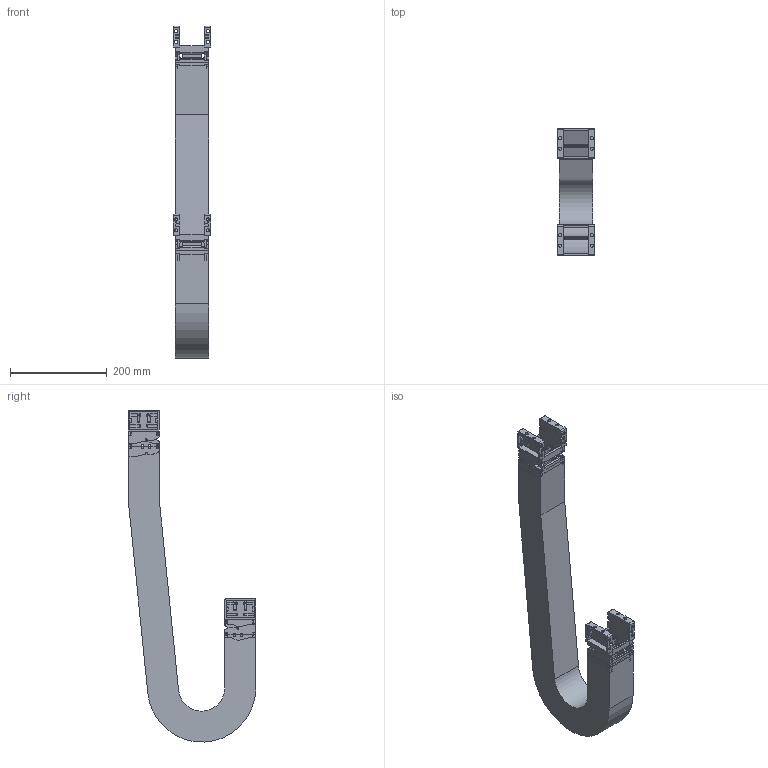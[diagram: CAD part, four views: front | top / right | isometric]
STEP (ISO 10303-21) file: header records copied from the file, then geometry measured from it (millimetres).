
FILE_DESCRIPTION((''),'2;1');
FILE_NAME('KST-50050-075_ASM','2017-12-07T',('KUNI004K'),(''),'PRO/ENGINEER BY PARAMETRIC TECHNOLOGY CORPORATION, 2015200','PRO/ENGINEER BY PARAMETRIC TECHNOLOGY CORPORATION, 2015200','');
FILE_SCHEMA(('AUTOMOTIVE_DESIGN { 1 0 10303 214 1 1 1 1 }'));
Products named in the file (13): 50FBR; 50FBL; 40050C; KST50FB_W050_ASM; KST50075R; KST50075L; 40050H; KST50050-075_1_ASM; KST50050_R75_BODY; 50MBR; 50MBL; KST50MB_W050_ASM; KST-50050-075_ASM
Assembly tree (19 placements, depth 3):
  KST-50050-075_ASM
    KST50FB_W050_ASM
      50FBR
      50FBL
      40050C  x2
    KST50050-075_1_ASM  x2
      KST50075R
      KST50075L
      40050C
      40050H
    KST50050_R75_BODY
    KST50MB_W050_ASM
      50MBR
      50MBL
      40050C  x2
Bounding box: 78 x 264 x 687.41 mm (x, y, z)
Volume: 1876526.9 mm3; surface area: 617236.9 mm2
Topology: 21 solids, 21 shells, 2648 faces, 7182 edges, 4604 vertices
Faces by surface type: plane 1350, cylinder 922, bspline 312, torus 64
Entity records: 66686 total; most frequent: CARTESIAN_POINT 13676, ORIENTED_EDGE 7112, DIRECTION 6434, PRESENTATION_STYLE_ASSIGNMENT 4856, STYLED_ITEM 4856, CURVE_STYLE 3556, EDGE_CURVE 3556, VERTEX_POINT 2296
